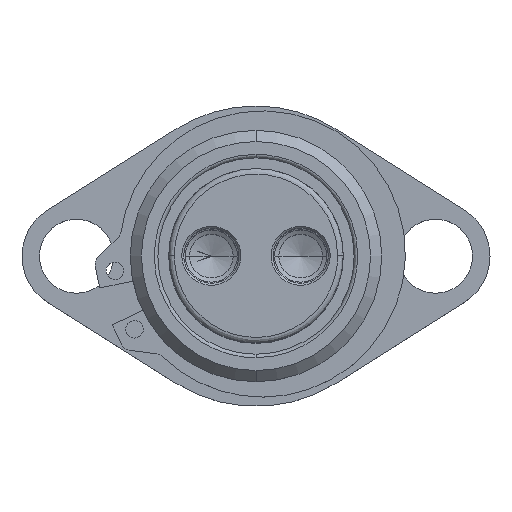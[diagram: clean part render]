
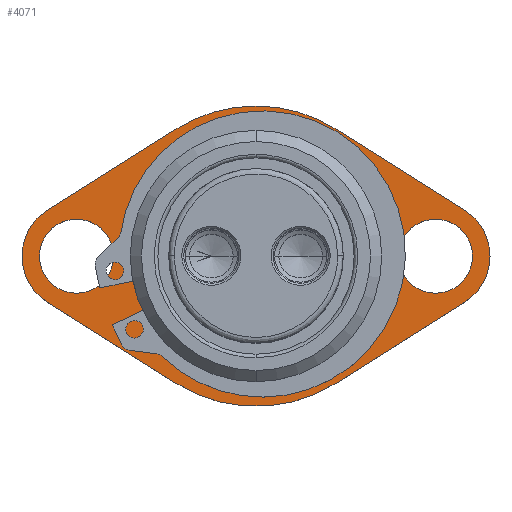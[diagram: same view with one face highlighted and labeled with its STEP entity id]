
A CAD part, top view. The second image highlights one B-rep face of the part: STEP entity #4071.
In plain terms, the highlighted planar face has unit normal (0, 0, 1) as drawn and (0, 1, 0) by its records, which use the part's own axes.
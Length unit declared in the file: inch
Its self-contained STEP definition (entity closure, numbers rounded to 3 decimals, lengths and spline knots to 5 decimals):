
#10 = CIRCLE ( 'NONE', #1902, 1.075 ) ;
#28 = EDGE_CURVE ( 'NONE', #1719, #1276, #2843, .T. ) ;
#90 = CARTESIAN_POINT ( 'NONE',  ( -1.285, 0.25, 0.265 ) ) ;
#116 = DIRECTION ( 'NONE',  ( 0., 0., -1. ) ) ;
#196 = DIRECTION ( 'NONE',  ( 0.846, 0., -0.533 ) ) ;
#218 = AXIS2_PLACEMENT_3D ( 'NONE', #4232, #1684, #2064 ) ;
#228 = VERTEX_POINT ( 'NONE', #2552 ) ;
#285 = EDGE_LOOP ( 'NONE', ( #1676, #3251 ) ) ;
#351 = EDGE_CURVE ( 'NONE', #1276, #1719, #2726, .T. ) ;
#374 = AXIS2_PLACEMENT_3D ( 'NONE', #740, #4412, #116 ) ;
#415 = LINE ( 'NONE', #1640, #4149 ) ;
#416 = EDGE_CURVE ( 'NONE', #1897, #2817, #1596, .T. ) ;
#599 = VECTOR ( 'NONE', #2092, 39.37008 ) ;
#604 = ORIENTED_EDGE ( 'NONE', *, *, #3920, .T. ) ;
#622 = CARTESIAN_POINT ( 'NONE',  ( 1.4929, 0.25, 0.32997 ) ) ;
#632 = DIRECTION ( 'NONE',  ( 0., -1., 0. ) ) ;
#706 = DIRECTION ( 'NONE',  ( 0.846, 0., 0.533 ) ) ;
#740 = CARTESIAN_POINT ( 'NONE',  ( 0., 0.25, 0. ) ) ;
#769 = CARTESIAN_POINT ( 'NONE',  ( -0.57305, 0.25, 0.90952 ) ) ;
#770 = VERTEX_POINT ( 'NONE', #897 ) ;
#841 = ORIENTED_EDGE ( 'NONE', *, *, #28, .T. ) ;
#849 = DIRECTION ( 'NONE',  ( 0., 0., -1. ) ) ;
#862 = AXIS2_PLACEMENT_3D ( 'NONE', #3782, #4540, #3084 ) ;
#897 = CARTESIAN_POINT ( 'NONE',  ( -1.4929, 0.25, -0.32997 ) ) ;
#1041 = EDGE_CURVE ( 'NONE', #228, #3581, #4040, .T. ) ;
#1047 = DIRECTION ( 'NONE',  ( 0., 0., -1. ) ) ;
#1231 = EDGE_CURVE ( 'NONE', #2874, #770, #2906, .T. ) ;
#1235 = EDGE_CURVE ( 'NONE', #2874, #1576, #4138, .T. ) ;
#1249 = CIRCLE ( 'NONE', #3092, 0.9 ) ;
#1276 = VERTEX_POINT ( 'NONE', #1488 ) ;
#1278 = VERTEX_POINT ( 'NONE', #769 ) ;
#1315 = CARTESIAN_POINT ( 'NONE',  ( 0.57305, 0.25, 0.90952 ) ) ;
#1317 = CARTESIAN_POINT ( 'NONE',  ( 0., 0.25, -1.075 ) ) ;
#1326 = EDGE_CURVE ( 'NONE', #3360, #2679, #2229, .T. ) ;
#1393 = EDGE_LOOP ( 'NONE', ( #4258, #3498, #1784, #604, #1960, #3921, #2016, #3212, #4463 ) ) ;
#1425 = CARTESIAN_POINT ( 'NONE',  ( -1.285, 0.25, 0. ) ) ;
#1435 = EDGE_LOOP ( 'NONE', ( #3585, #841 ) ) ;
#1488 = CARTESIAN_POINT ( 'NONE',  ( -1.285, 0.25, -0.265 ) ) ;
#1558 = FACE_BOUND ( 'NONE', #4146, .T. ) ;
#1576 = VERTEX_POINT ( 'NONE', #1317 ) ;
#1596 = CIRCLE ( 'NONE', #2974, 0.9 ) ;
#1615 = CARTESIAN_POINT ( 'NONE',  ( -1.285, 0.25, 0. ) ) ;
#1631 = EDGE_CURVE ( 'NONE', #2545, #1278, #10, .T. ) ;
#1640 = CARTESIAN_POINT ( 'NONE',  ( 0.57305, 0.25, 0.90952 ) ) ;
#1676 = ORIENTED_EDGE ( 'NONE', *, *, #4265, .T. ) ;
#1684 = DIRECTION ( 'NONE',  ( 0., -1., 0. ) ) ;
#1697 = DIRECTION ( 'NONE',  ( 0., 0., -1. ) ) ;
#1718 = EDGE_CURVE ( 'NONE', #1576, #2508, #1758, .T. ) ;
#1719 = VERTEX_POINT ( 'NONE', #90 ) ;
#1758 = CIRCLE ( 'NONE', #374, 1.075 ) ;
#1784 = ORIENTED_EDGE ( 'NONE', *, *, #4492, .F. ) ;
#1834 = DIRECTION ( 'NONE',  ( 0., 0., -1. ) ) ;
#1870 = DIRECTION ( 'NONE',  ( 0., 0., -1. ) ) ;
#1897 = VERTEX_POINT ( 'NONE', #2856 ) ;
#1902 = AXIS2_PLACEMENT_3D ( 'NONE', #3164, #3843, #1697 ) ;
#1960 = ORIENTED_EDGE ( 'NONE', *, *, #1631, .F. ) ;
#1969 = CARTESIAN_POINT ( 'NONE',  ( -0.57305, 0.25, -0.90952 ) ) ;
#1976 = DIRECTION ( 'NONE',  ( 0., -1., 0. ) ) ;
#2016 = ORIENTED_EDGE ( 'NONE', *, *, #1041, .F. ) ;
#2064 = DIRECTION ( 'NONE',  ( 0., 0., -1. ) ) ;
#2075 = CARTESIAN_POINT ( 'NONE',  ( 0.57305, 0.25, -0.90952 ) ) ;
#2092 = DIRECTION ( 'NONE',  ( -0.846, 0., -0.533 ) ) ;
#2118 = EDGE_CURVE ( 'NONE', #2817, #1897, #1249, .T. ) ;
#2226 = CARTESIAN_POINT ( 'NONE',  ( 1.285, 0.25, 0.265 ) ) ;
#2229 = CIRCLE ( 'NONE', #2631, 0.265 ) ;
#2272 = DIRECTION ( 'NONE',  ( 0., 0., -1. ) ) ;
#2278 = PLANE ( 'NONE',  #3911 ) ;
#2330 = AXIS2_PLACEMENT_3D ( 'NONE', #1615, #1976, #849 ) ;
#2403 = CARTESIAN_POINT ( 'NONE',  ( -1.4929, 0.25, 0.32997 ) ) ;
#2508 = VERTEX_POINT ( 'NONE', #3512 ) ;
#2545 = VERTEX_POINT ( 'NONE', #1315 ) ;
#2546 = DIRECTION ( 'NONE',  ( 0., -1., 0. ) ) ;
#2547 = LINE ( 'NONE', #2075, #599 ) ;
#2552 = CARTESIAN_POINT ( 'NONE',  ( 1.4929, 0.25, -0.32997 ) ) ;
#2577 = AXIS2_PLACEMENT_3D ( 'NONE', #1425, #3519, #1047 ) ;
#2585 = EDGE_CURVE ( 'NONE', #228, #2508, #2547, .T. ) ;
#2631 = AXIS2_PLACEMENT_3D ( 'NONE', #3718, #3700, #2272 ) ;
#2679 = VERTEX_POINT ( 'NONE', #4645 ) ;
#2726 = CIRCLE ( 'NONE', #2330, 0.265 ) ;
#2739 = FACE_OUTER_BOUND ( 'NONE', #1393, .T. ) ;
#2786 = CARTESIAN_POINT ( 'NONE',  ( 0., 0.25, 0. ) ) ;
#2817 = VERTEX_POINT ( 'NONE', #3284 ) ;
#2843 = CIRCLE ( 'NONE', #862, 0.265 ) ;
#2856 = CARTESIAN_POINT ( 'NONE',  ( 0., 0.25, 0.9 ) ) ;
#2874 = VERTEX_POINT ( 'NONE', #1969 ) ;
#2906 = LINE ( 'NONE', #3109, #4089 ) ;
#2911 = CIRCLE ( 'NONE', #2577, 0.39 ) ;
#2974 = AXIS2_PLACEMENT_3D ( 'NONE', #2786, #3171, #1834 ) ;
#3006 = DIRECTION ( 'NONE',  ( 0., 0., 1. ) ) ;
#3068 = ORIENTED_EDGE ( 'NONE', *, *, #416, .T. ) ;
#3084 = DIRECTION ( 'NONE',  ( 0., 0., -1. ) ) ;
#3092 = AXIS2_PLACEMENT_3D ( 'NONE', #3492, #632, #3177 ) ;
#3109 = CARTESIAN_POINT ( 'NONE',  ( -1.4929, 0.25, -0.32997 ) ) ;
#3150 = FACE_BOUND ( 'NONE', #1435, .T. ) ;
#3164 = CARTESIAN_POINT ( 'NONE',  ( 0., 0.25, 0. ) ) ;
#3171 = DIRECTION ( 'NONE',  ( 0., -1., 0. ) ) ;
#3177 = DIRECTION ( 'NONE',  ( 0., 0., -1. ) ) ;
#3212 = ORIENTED_EDGE ( 'NONE', *, *, #2585, .T. ) ;
#3251 = ORIENTED_EDGE ( 'NONE', *, *, #1326, .T. ) ;
#3284 = CARTESIAN_POINT ( 'NONE',  ( 0., 0.25, -0.9 ) ) ;
#3360 = VERTEX_POINT ( 'NONE', #2226 ) ;
#3406 = AXIS2_PLACEMENT_3D ( 'NONE', #4511, #4453, #3780 ) ;
#3492 = CARTESIAN_POINT ( 'NONE',  ( 0., 0.25, 0. ) ) ;
#3498 = ORIENTED_EDGE ( 'NONE', *, *, #1231, .T. ) ;
#3512 = CARTESIAN_POINT ( 'NONE',  ( 0.57305, 0.25, -0.90952 ) ) ;
#3519 = DIRECTION ( 'NONE',  ( 0., -1., 0. ) ) ;
#3579 = CARTESIAN_POINT ( 'NONE',  ( -1.4929, 0.25, 0.32997 ) ) ;
#3581 = VERTEX_POINT ( 'NONE', #622 ) ;
#3585 = ORIENTED_EDGE ( 'NONE', *, *, #351, .T. ) ;
#3700 = DIRECTION ( 'NONE',  ( 0., -1., 0. ) ) ;
#3718 = CARTESIAN_POINT ( 'NONE',  ( 1.285, 0.25, 0. ) ) ;
#3780 = DIRECTION ( 'NONE',  ( 0., 0., -1. ) ) ;
#3782 = CARTESIAN_POINT ( 'NONE',  ( -1.285, 0.25, 0. ) ) ;
#3813 = AXIS2_PLACEMENT_3D ( 'NONE', #4037, #2546, #1870 ) ;
#3843 = DIRECTION ( 'NONE',  ( 0., -1., 0. ) ) ;
#3851 = FACE_BOUND ( 'NONE', #285, .T. ) ;
#3911 = AXIS2_PLACEMENT_3D ( 'NONE', #4028, #4076, #3006 ) ;
#3920 = EDGE_CURVE ( 'NONE', #4391, #1278, #3935, .T. ) ;
#3921 = ORIENTED_EDGE ( 'NONE', *, *, #4318, .T. ) ;
#3930 = ORIENTED_EDGE ( 'NONE', *, *, #2118, .T. ) ;
#3935 = LINE ( 'NONE', #3579, #4004 ) ;
#4004 = VECTOR ( 'NONE', #706, 39.37008 ) ;
#4028 = CARTESIAN_POINT ( 'NONE',  ( -1.285, 0.25, 0. ) ) ;
#4037 = CARTESIAN_POINT ( 'NONE',  ( 0., 0.25, 0. ) ) ;
#4040 = CIRCLE ( 'NONE', #3406, 0.39 ) ;
#4071 = ADVANCED_FACE ( 'NONE', ( #3150, #2739, #3851, #1558 ), #2278, .T. ) ;
#4076 = DIRECTION ( 'NONE',  ( 0., 1., 0. ) ) ;
#4089 = VECTOR ( 'NONE', #4230, 39.37008 ) ;
#4138 = CIRCLE ( 'NONE', #3813, 1.075 ) ;
#4146 = EDGE_LOOP ( 'NONE', ( #3930, #3068 ) ) ;
#4149 = VECTOR ( 'NONE', #196, 39.37008 ) ;
#4230 = DIRECTION ( 'NONE',  ( -0.846, 0., 0.533 ) ) ;
#4232 = CARTESIAN_POINT ( 'NONE',  ( 1.285, 0.25, 0. ) ) ;
#4258 = ORIENTED_EDGE ( 'NONE', *, *, #1235, .F. ) ;
#4265 = EDGE_CURVE ( 'NONE', #2679, #3360, #4311, .T. ) ;
#4311 = CIRCLE ( 'NONE', #218, 0.265 ) ;
#4318 = EDGE_CURVE ( 'NONE', #2545, #3581, #415, .T. ) ;
#4391 = VERTEX_POINT ( 'NONE', #2403 ) ;
#4412 = DIRECTION ( 'NONE',  ( 0., -1., 0. ) ) ;
#4453 = DIRECTION ( 'NONE',  ( 0., -1., 0. ) ) ;
#4463 = ORIENTED_EDGE ( 'NONE', *, *, #1718, .F. ) ;
#4492 = EDGE_CURVE ( 'NONE', #4391, #770, #2911, .T. ) ;
#4511 = CARTESIAN_POINT ( 'NONE',  ( 1.285, 0.25, 0. ) ) ;
#4540 = DIRECTION ( 'NONE',  ( 0., -1., 0. ) ) ;
#4645 = CARTESIAN_POINT ( 'NONE',  ( 1.285, 0.25, -0.265 ) ) ;
